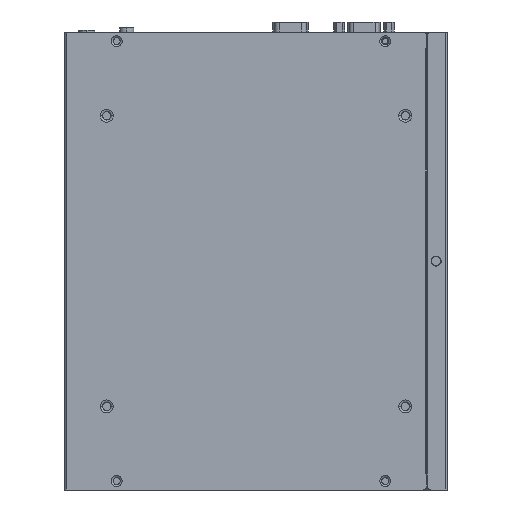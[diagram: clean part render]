
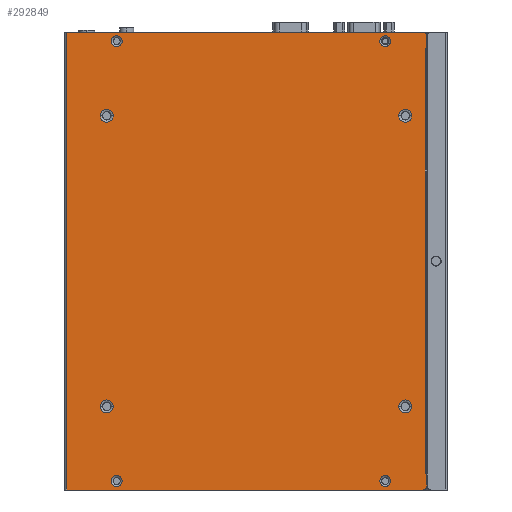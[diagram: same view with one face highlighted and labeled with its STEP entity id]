
A CAD part, front view. The second image highlights one B-rep face of the part: STEP entity #292849.
In plain terms, the highlighted planar face has unit normal (0, -1, 0).
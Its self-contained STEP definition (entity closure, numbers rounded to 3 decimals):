
#264307=DIRECTION('',(0.,0.,-1.));
#264308=VECTOR('',#264307,6.3);
#264309=CARTESIAN_POINT('',(176.8,-80.75,-219.56));
#264310=LINE('',#264309,#264308);
#264314=DIRECTION('',(-1.,0.,0.));
#264315=VECTOR('',#264314,179.);
#264316=CARTESIAN_POINT('',(174.8,-80.75,2.14));
#264317=LINE('',#264316,#264315);
#264321=CARTESIAN_POINT('',(174.8,-80.75,0.14));
#264322=DIRECTION('',(0.,-1.,0.));
#264323=DIRECTION('',(1.,0.,0.));
#264324=AXIS2_PLACEMENT_3D('',#264321,#264322,#264323);
#264329=CARTESIAN_POINT('',(174.8,-80.75,-225.86));
#264330=DIRECTION('',(0.,-1.,0.));
#264331=DIRECTION('',(0.,0.,-1.));
#264332=AXIS2_PLACEMENT_3D('',#264329,#264330,#264331);
#264337=CARTESIAN_POINT('',(166.,-80.75,-185.86));
#264338=DIRECTION('',(0.,1.,0.));
#264339=DIRECTION('',(1.,0.,0.));
#264340=AXIS2_PLACEMENT_3D('',#264337,#264338,#264339);
#264345=CARTESIAN_POINT('',(166.,-80.75,-185.86));
#264346=DIRECTION('',(0.,1.,0.));
#264347=DIRECTION('',(-1.,0.,0.));
#264348=AXIS2_PLACEMENT_3D('',#264345,#264346,#264347);
#264353=CARTESIAN_POINT('',(16.,-80.75,-185.86));
#264354=DIRECTION('',(0.,1.,0.));
#264355=DIRECTION('',(1.,0.,0.));
#264356=AXIS2_PLACEMENT_3D('',#264353,#264354,#264355);
#264361=CARTESIAN_POINT('',(16.,-80.75,-185.86));
#264362=DIRECTION('',(0.,1.,0.));
#264363=DIRECTION('',(-1.,0.,0.));
#264364=AXIS2_PLACEMENT_3D('',#264361,#264362,#264363);
#264369=CARTESIAN_POINT('',(166.,-80.75,-39.86));
#264370=DIRECTION('',(0.,1.,0.));
#264371=DIRECTION('',(1.,0.,0.));
#264372=AXIS2_PLACEMENT_3D('',#264369,#264370,#264371);
#264377=CARTESIAN_POINT('',(166.,-80.75,-39.86));
#264378=DIRECTION('',(0.,1.,0.));
#264379=DIRECTION('',(-1.,0.,0.));
#264380=AXIS2_PLACEMENT_3D('',#264377,#264378,#264379);
#264385=CARTESIAN_POINT('',(16.,-80.75,-39.86));
#264386=DIRECTION('',(0.,1.,0.));
#264387=DIRECTION('',(1.,0.,0.));
#264388=AXIS2_PLACEMENT_3D('',#264385,#264386,#264387);
#264393=CARTESIAN_POINT('',(16.,-80.75,-39.86));
#264394=DIRECTION('',(0.,1.,0.));
#264395=DIRECTION('',(-1.,0.,0.));
#264396=AXIS2_PLACEMENT_3D('',#264393,#264394,#264395);
#264401=CARTESIAN_POINT('',(155.95,-80.75,-2.36));
#264402=DIRECTION('',(0.,1.,0.));
#264403=DIRECTION('',(0.,0.,-1.));
#264404=AXIS2_PLACEMENT_3D('',#264401,#264402,#264403);
#264409=CARTESIAN_POINT('',(155.95,-80.75,-2.36));
#264410=DIRECTION('',(0.,1.,0.));
#264411=DIRECTION('',(0.,0.,1.));
#264412=AXIS2_PLACEMENT_3D('',#264409,#264410,#264411);
#264417=CARTESIAN_POINT('',(155.95,-80.75,-223.36));
#264418=DIRECTION('',(0.,1.,0.));
#264419=DIRECTION('',(0.,0.,-1.));
#264420=AXIS2_PLACEMENT_3D('',#264417,#264418,#264419);
#264425=CARTESIAN_POINT('',(155.95,-80.75,-223.36));
#264426=DIRECTION('',(0.,1.,0.));
#264427=DIRECTION('',(0.,0.,1.));
#264428=AXIS2_PLACEMENT_3D('',#264425,#264426,#264427);
#264433=CARTESIAN_POINT('',(21.,-80.75,-2.36));
#264434=DIRECTION('',(0.,1.,0.));
#264435=DIRECTION('',(0.,0.,-1.));
#264436=AXIS2_PLACEMENT_3D('',#264433,#264434,#264435);
#264441=CARTESIAN_POINT('',(21.,-80.75,-2.36));
#264442=DIRECTION('',(0.,1.,0.));
#264443=DIRECTION('',(0.,0.,1.));
#264444=AXIS2_PLACEMENT_3D('',#264441,#264442,#264443);
#264449=CARTESIAN_POINT('',(21.,-80.75,-223.36));
#264450=DIRECTION('',(0.,1.,0.));
#264451=DIRECTION('',(0.,0.,-1.));
#264452=AXIS2_PLACEMENT_3D('',#264449,#264450,#264451);
#264457=CARTESIAN_POINT('',(21.,-80.75,-223.36));
#264458=DIRECTION('',(0.,1.,0.));
#264459=DIRECTION('',(0.,0.,1.));
#264460=AXIS2_PLACEMENT_3D('',#264457,#264458,#264459);
#264472=DIRECTION('',(-1.,0.,0.));
#264473=VECTOR('',#264472,179.);
#264474=CARTESIAN_POINT('',(174.8,-80.75,-227.86));
#264475=LINE('',#264474,#264473);
#265267=DIRECTION('',(0.,0.,-1.));
#265268=VECTOR('',#265267,6.3);
#265269=CARTESIAN_POINT('',(176.8,-80.75,0.14));
#265270=LINE('',#265269,#265268);
#265274=DIRECTION('',(-1.,0.,0.));
#265275=VECTOR('',#265274,0.8);
#265276=CARTESIAN_POINT('',(176.8,-80.75,-6.16));
#265277=LINE('',#265276,#265275);
#265296=DIRECTION('',(0.,0.,-1.));
#265297=VECTOR('',#265296,213.4);
#265298=CARTESIAN_POINT('',(176.,-80.75,-6.16));
#265299=LINE('',#265298,#265297);
#265318=DIRECTION('',(1.,0.,0.));
#265319=VECTOR('',#265318,0.8);
#265320=CARTESIAN_POINT('',(176.,-80.75,-219.56));
#265321=LINE('',#265320,#265319);
#265347=DIRECTION('',(0.,0.,1.));
#265348=VECTOR('',#265347,230.);
#265349=CARTESIAN_POINT('',(-4.2,-80.75,-227.86));
#265350=LINE('',#265349,#265348);
#286094=CARTESIAN_POINT('',(176.,-80.75,-6.16));
#286096=VERTEX_POINT('',#286094);
#286186=CARTESIAN_POINT('',(155.95,-80.75,0.39));
#286188=VERTEX_POINT('',#286186);
#286368=CARTESIAN_POINT('',(174.8,-80.75,-227.86));
#286369=CARTESIAN_POINT('',(176.8,-80.75,-225.86));
#286370=VERTEX_POINT('',#286368);
#286371=VERTEX_POINT('',#286369);
#286586=CARTESIAN_POINT('',(19.25,-80.75,-185.86));
#286587=CARTESIAN_POINT('',(12.75,-80.75,-185.86));
#286588=VERTEX_POINT('',#286586);
#286589=VERTEX_POINT('',#286587);
#286614=CARTESIAN_POINT('',(-4.2,-80.75,-227.86));
#286615=CARTESIAN_POINT('',(-4.2,-80.75,2.14));
#286616=VERTEX_POINT('',#286614);
#286617=VERTEX_POINT('',#286615);
#286946=CARTESIAN_POINT('',(155.95,-80.75,-226.11));
#286948=VERTEX_POINT('',#286946);
#287170=CARTESIAN_POINT('',(176.,-80.75,-219.56));
#287171=VERTEX_POINT('',#287170);
#287176=CARTESIAN_POINT('',(21.,-80.75,0.39));
#287178=VERTEX_POINT('',#287176);
#287422=CARTESIAN_POINT('',(169.25,-80.75,-185.86));
#287423=CARTESIAN_POINT('',(162.75,-80.75,-185.86));
#287424=VERTEX_POINT('',#287422);
#287425=VERTEX_POINT('',#287423);
#287706=CARTESIAN_POINT('',(155.95,-80.75,-5.11));
#287707=VERTEX_POINT('',#287706);
#287948=CARTESIAN_POINT('',(21.,-80.75,-220.61));
#287949=VERTEX_POINT('',#287948);
#288008=CARTESIAN_POINT('',(12.75,-80.75,-39.86));
#288009=VERTEX_POINT('',#288008);
#288230=CARTESIAN_POINT('',(174.8,-80.75,2.14));
#288231=VERTEX_POINT('',#288230);
#288982=CARTESIAN_POINT('',(162.75,-80.75,-39.86));
#288983=CARTESIAN_POINT('',(169.25,-80.75,-39.86));
#288984=VERTEX_POINT('',#288982);
#288985=VERTEX_POINT('',#288983);
#289008=CARTESIAN_POINT('',(21.,-80.75,-226.11));
#289009=VERTEX_POINT('',#289008);
#289524=CARTESIAN_POINT('',(19.25,-80.75,-39.86));
#289525=VERTEX_POINT('',#289524);
#289602=CARTESIAN_POINT('',(155.95,-80.75,-220.61));
#289604=VERTEX_POINT('',#289602);
#289996=CARTESIAN_POINT('',(176.8,-80.75,0.14));
#289997=VERTEX_POINT('',#289996);
#290188=CARTESIAN_POINT('',(176.8,-80.75,-219.56));
#290189=VERTEX_POINT('',#290188);
#290206=CARTESIAN_POINT('',(21.,-80.75,-5.11));
#290207=VERTEX_POINT('',#290206);
#290336=CARTESIAN_POINT('',(176.8,-80.75,-6.16));
#290337=VERTEX_POINT('',#290336);
#292775=CARTESIAN_POINT('',(-5.,-80.75,-227.86));
#292776=DIRECTION('',(0.,-1.,0.));
#292777=DIRECTION('',(0.,0.,-1.));
#292778=AXIS2_PLACEMENT_3D('',#292775,#292776,#292777);
#292779=PLANE('',#292778);
#292781=ORIENTED_EDGE('',*,*,#292780,.T.);
#292783=ORIENTED_EDGE('',*,*,#292782,.T.);
#292785=ORIENTED_EDGE('',*,*,#292784,.F.);
#292787=ORIENTED_EDGE('',*,*,#292786,.F.);
#292789=ORIENTED_EDGE('',*,*,#292788,.T.);
#292791=ORIENTED_EDGE('',*,*,#292790,.T.);
#292793=ORIENTED_EDGE('',*,*,#292792,.T.);
#292795=ORIENTED_EDGE('',*,*,#292794,.T.);
#292796=ORIENTED_EDGE('',*,*,#292765,.T.);
#292798=ORIENTED_EDGE('',*,*,#292797,.F.);
#292799=EDGE_LOOP('',(#292781,#292783,#292785,#292787,#292789,#292791,#292793,
#292795,#292796,#292798));
#292800=FACE_OUTER_BOUND('',#292799,.F.);
#292802=ORIENTED_EDGE('',*,*,#292801,.F.);
#292804=ORIENTED_EDGE('',*,*,#292803,.F.);
#292805=EDGE_LOOP('',(#292802,#292804));
#292806=FACE_BOUND('',#292805,.F.);
#292808=ORIENTED_EDGE('',*,*,#292807,.F.);
#292810=ORIENTED_EDGE('',*,*,#292809,.F.);
#292811=EDGE_LOOP('',(#292808,#292810));
#292812=FACE_BOUND('',#292811,.F.);
#292814=ORIENTED_EDGE('',*,*,#292813,.F.);
#292816=ORIENTED_EDGE('',*,*,#292815,.F.);
#292817=EDGE_LOOP('',(#292814,#292816));
#292818=FACE_BOUND('',#292817,.F.);
#292820=ORIENTED_EDGE('',*,*,#292819,.F.);
#292822=ORIENTED_EDGE('',*,*,#292821,.F.);
#292823=EDGE_LOOP('',(#292820,#292822));
#292824=FACE_BOUND('',#292823,.F.);
#292826=ORIENTED_EDGE('',*,*,#292825,.F.);
#292828=ORIENTED_EDGE('',*,*,#292827,.F.);
#292829=EDGE_LOOP('',(#292826,#292828));
#292830=FACE_BOUND('',#292829,.F.);
#292832=ORIENTED_EDGE('',*,*,#292831,.F.);
#292834=ORIENTED_EDGE('',*,*,#292833,.F.);
#292835=EDGE_LOOP('',(#292832,#292834));
#292836=FACE_BOUND('',#292835,.F.);
#292838=ORIENTED_EDGE('',*,*,#292837,.F.);
#292840=ORIENTED_EDGE('',*,*,#292839,.F.);
#292841=EDGE_LOOP('',(#292838,#292840));
#292842=FACE_BOUND('',#292841,.F.);
#292844=ORIENTED_EDGE('',*,*,#292843,.F.);
#292846=ORIENTED_EDGE('',*,*,#292845,.F.);
#292847=EDGE_LOOP('',(#292844,#292846));
#292848=FACE_BOUND('',#292847,.F.);
#264325=CIRCLE('',#264324,2.);
#264333=CIRCLE('',#264332,2.);
#264341=CIRCLE('',#264340,3.25);
#264349=CIRCLE('',#264348,3.25);
#264357=CIRCLE('',#264356,3.25);
#264365=CIRCLE('',#264364,3.25);
#264373=CIRCLE('',#264372,3.25);
#264381=CIRCLE('',#264380,3.25);
#264389=CIRCLE('',#264388,3.25);
#264397=CIRCLE('',#264396,3.25);
#264405=CIRCLE('',#264404,2.75);
#264413=CIRCLE('',#264412,2.75);
#264421=CIRCLE('',#264420,2.75);
#264429=CIRCLE('',#264428,2.75);
#264437=CIRCLE('',#264436,2.75);
#264445=CIRCLE('',#264444,2.75);
#264453=CIRCLE('',#264452,2.75);
#264461=CIRCLE('',#264460,2.75);
#292765=EDGE_CURVE('',#290189,#286371,#264310,.T.);
#292780=EDGE_CURVE('',#286370,#286616,#264475,.T.);
#292782=EDGE_CURVE('',#286616,#286617,#265350,.T.);
#292784=EDGE_CURVE('',#288231,#286617,#264317,.T.);
#292786=EDGE_CURVE('',#289997,#288231,#264325,.T.);
#292788=EDGE_CURVE('',#289997,#290337,#265270,.T.);
#292790=EDGE_CURVE('',#290337,#286096,#265277,.T.);
#292792=EDGE_CURVE('',#286096,#287171,#265299,.T.);
#292794=EDGE_CURVE('',#287171,#290189,#265321,.T.);
#292797=EDGE_CURVE('',#286370,#286371,#264333,.T.);
#292801=EDGE_CURVE('',#287424,#287425,#264341,.T.);
#292803=EDGE_CURVE('',#287425,#287424,#264349,.T.);
#292807=EDGE_CURVE('',#286588,#286589,#264357,.T.);
#292809=EDGE_CURVE('',#286589,#286588,#264365,.T.);
#292813=EDGE_CURVE('',#288985,#288984,#264373,.T.);
#292815=EDGE_CURVE('',#288984,#288985,#264381,.T.);
#292819=EDGE_CURVE('',#289525,#288009,#264389,.T.);
#292821=EDGE_CURVE('',#288009,#289525,#264397,.T.);
#292825=EDGE_CURVE('',#287707,#286188,#264405,.T.);
#292827=EDGE_CURVE('',#286188,#287707,#264413,.T.);
#292831=EDGE_CURVE('',#286948,#289604,#264421,.T.);
#292833=EDGE_CURVE('',#289604,#286948,#264429,.T.);
#292837=EDGE_CURVE('',#290207,#287178,#264437,.T.);
#292839=EDGE_CURVE('',#287178,#290207,#264445,.T.);
#292843=EDGE_CURVE('',#289009,#287949,#264453,.T.);
#292845=EDGE_CURVE('',#287949,#289009,#264461,.T.);
#292849=ADVANCED_FACE('',(#292800,#292806,#292812,#292818,#292824,#292830,
#292836,#292842,#292848),#292779,.T.);
